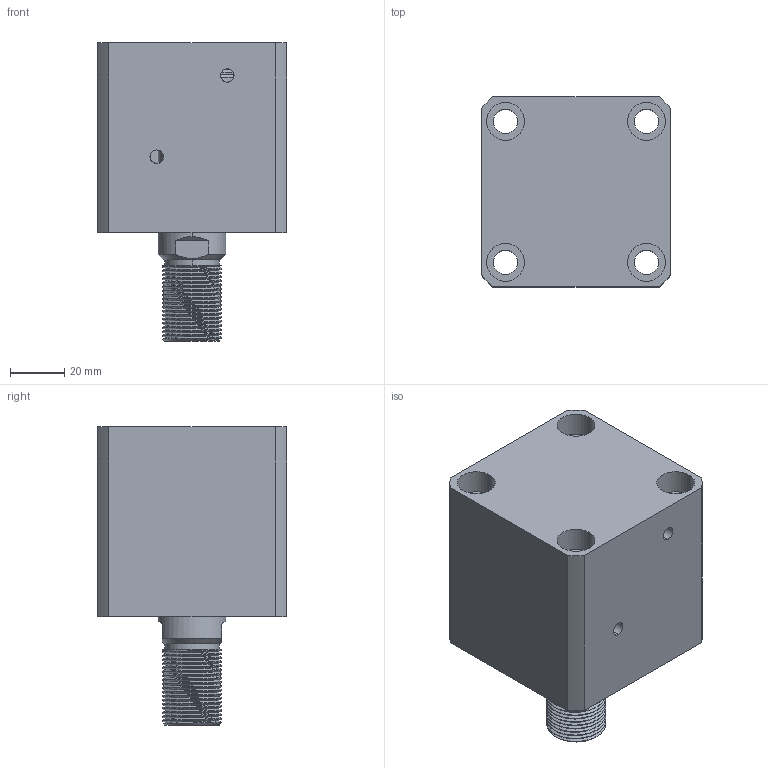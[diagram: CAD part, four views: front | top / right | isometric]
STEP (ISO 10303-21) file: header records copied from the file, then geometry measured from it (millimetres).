
FILE_DESCRIPTION (( 'STEP AP214' ), '1' );
FILE_NAME ('chtb-sdma40x15w_asm.STEP', '2018-06-06T00:51:59', ( 'Windows' ), ( 'Microsoft' ), 'SwSTEP 2.0', 'SolidWorks 2015', '' );
FILE_SCHEMA (( 'AUTOMOTIVE_DESIGN' ));
Length unit declared in the file: millimetre
Products named in the file (4): CHTB-SDMA40X15NBT; CHTB-SD40X15WHSG; CHTB-SD40QG; chtb-sdma40x15w_asm
Assembly tree (3 placements, depth 2):
  chtb-sdma40x15w_asm
    CHTB-SD40QG
    CHTB-SD40X15WHSG
    CHTB-SDMA40X15NBT
Bounding box: 70 x 70 x 110 mm (x, y, z)
Volume: 314945.5 mm3; surface area: 70453.3 mm2
Topology: 3 solids, 4 shells, 203 faces, 545 edges, 363 vertices
Faces by surface type: cylinder 122, plane 40, bspline 16, torus 14, cone 11
Entity records: 13587 total; most frequent: CARTESIAN_POINT 8658, ORIENTED_EDGE 1078, DIRECTION 914, EDGE_CURVE 539, AXIS2_PLACEMENT_3D 378, VERTEX_POINT 363, EDGE_LOOP 240, ADVANCED_FACE 203
